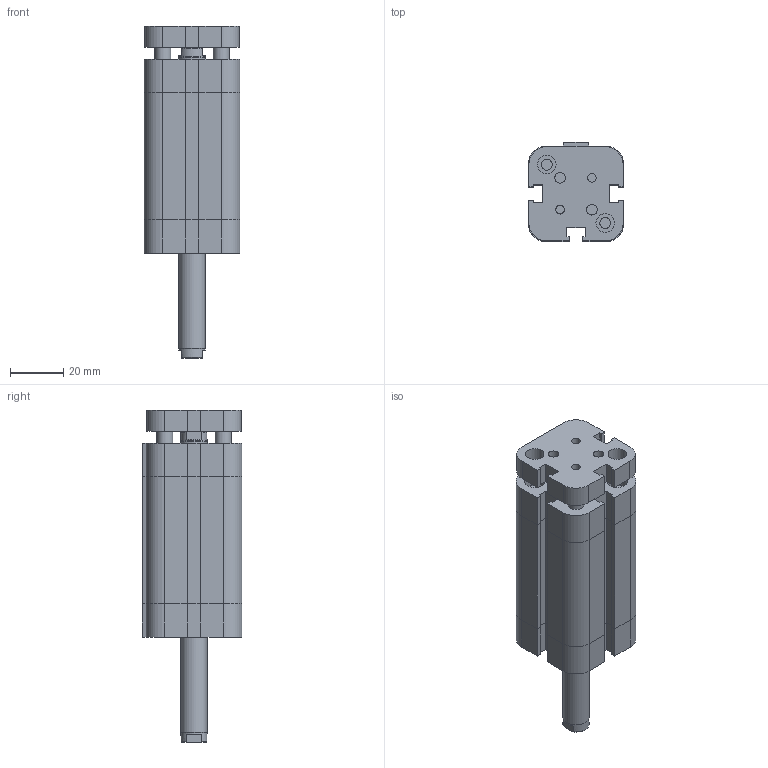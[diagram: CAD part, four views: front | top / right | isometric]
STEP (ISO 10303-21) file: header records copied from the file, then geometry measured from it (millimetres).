
FILE_DESCRIPTION((''),'2;1');
FILE_NAME('I:\Area Tecnica\Disegni\VARIE-3D\Componenti\EUROPE\15##_###_####_08_#\1581_20_0035_08_1.iam.stp','2009-04-20T15:30:26',(''),(''),'Autodesk Inventor 2009','Autodesk Inventor 2009','');
FILE_SCHEMA(('AUTOMOTIVE_DESIGN { 1 0 10303 214 1 1 1 1 }'));
Length unit declared in the file: millimetre
Products named in the file (3): 1581_20_0035_08_1; 1581_20_0035_08_1_C; 1561_20_0035_08_1_SA
Assembly tree (2 placements, depth 2):
  1581_20_0035_08_1
    1581_20_0035_08_1_C
    1561_20_0035_08_1_SA
Bounding box: 36 x 37.5 x 125 mm (x, y, z)
Volume: 96161.9 mm3; surface area: 29942.6 mm2
Topology: 2 solids, 2 shells, 209 faces, 490 edges, 306 vertices
Faces by surface type: plane 135, bspline 47, cylinder 21, cone 6
Full cylindrical faces by diameter (mm): 6 x2, 9.8 x2, 10 x1
Entity records: 6154 total; most frequent: CARTESIAN_POINT 1453, ORIENTED_EDGE 884, DIRECTION 862, EDGE_CURVE 442, VECTOR 340, LINE 340, VERTEX_POINT 290, EDGE_LOOP 276
